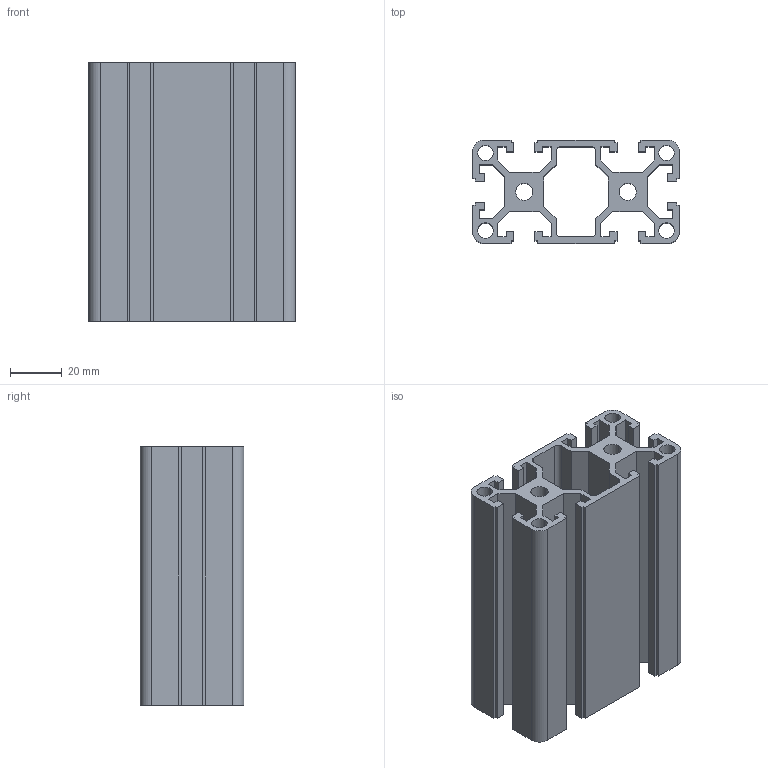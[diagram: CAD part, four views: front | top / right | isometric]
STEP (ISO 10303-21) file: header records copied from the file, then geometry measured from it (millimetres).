
FILE_DESCRIPTION (( 'STEP AP203' ), '1' );
FILE_NAME ('LIMA-4080H-8.STEP', '2018-03-15T12:34:04', ( '' ), ( '' ), 'SwSTEP 2.0', 'SolidWorks 2013', '' );
FILE_SCHEMA (( 'CONFIG_CONTROL_DESIGN' ));
Length unit declared in the file: millimetre
Products named in the file (1): LIMA-4080H-8
Bounding box: 80 x 40 x 100 mm (x, y, z)
Volume: 112832 mm3; surface area: 79383.1 mm2
Topology: 1 solids, 1 shells, 146 faces, 432 edges, 288 vertices
Faces by surface type: plane 126, cylinder 20
Entity records: 4921 total; most frequent: CARTESIAN_POINT 867, ORIENTED_EDGE 864, DIRECTION 766, EDGE_CURVE 432, LINE 392, VECTOR 392, VERTEX_POINT 288, AXIS2_PLACEMENT_3D 187
